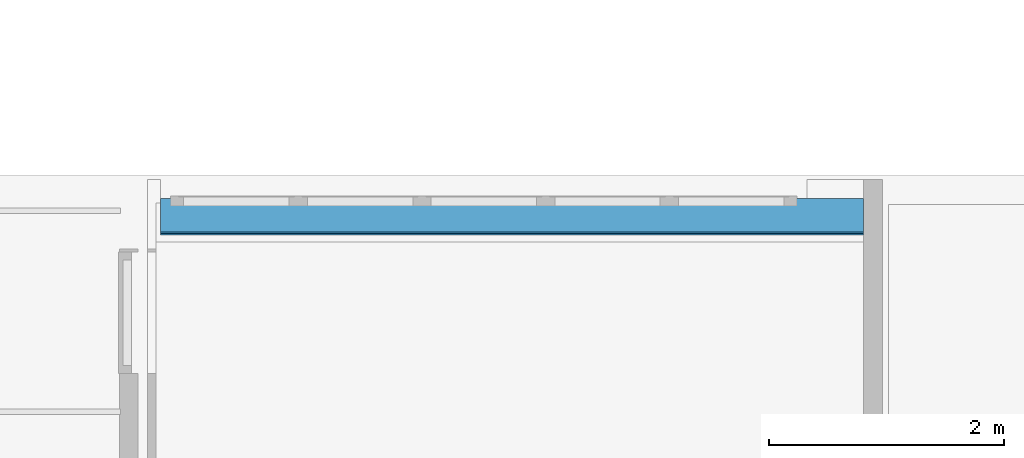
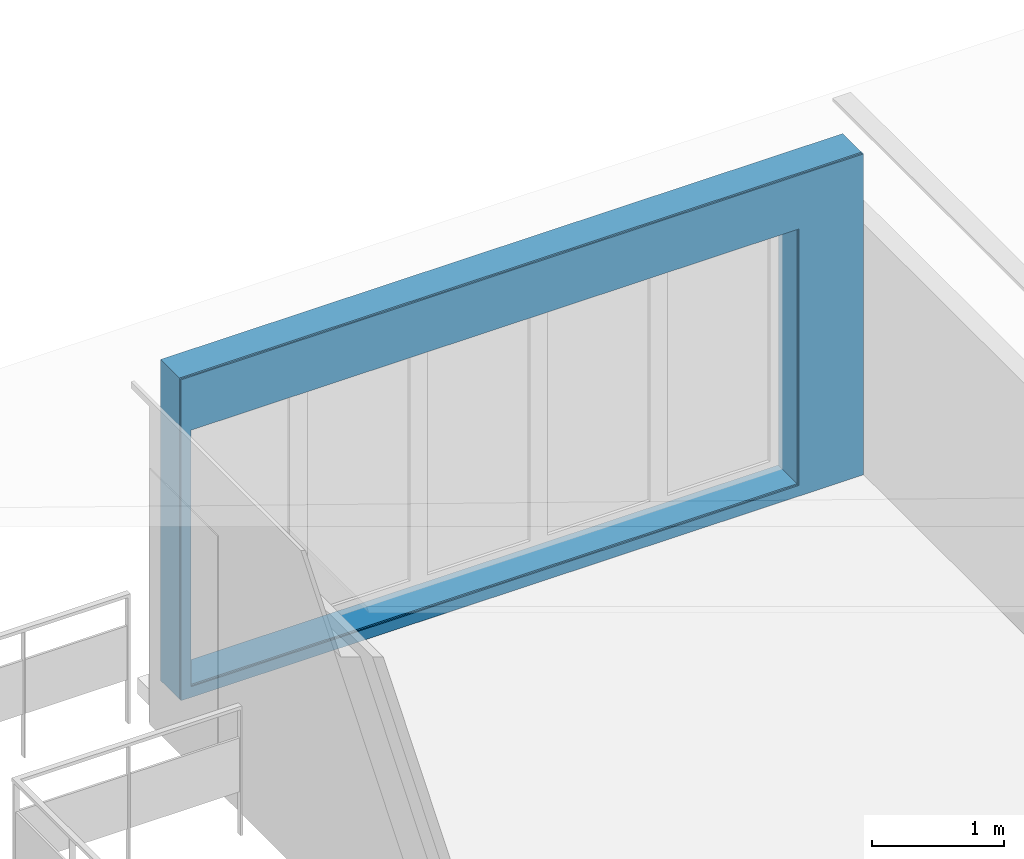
# One storey, part 16 of 25: 3 building element parts, 1 opening, 1 element without a shape of its own.
"""IFC2X3 building model written with IfcOpenShell, lengths in millimetres."""

from ifc_helpers import new_model, entity, si_unit, converted_unit, derived_unit, money_unit, direction, frame, origin_with_axes, place, context, subcontext, project, spatial, faceted_brep, material, type_object, element, aggregate, save


model = new_model("IFC2X3")

# Units and contexts
model_context = context("Model", 3, precision=0.01, world=origin_with_axes(), true_north=direction((0.0, 1.0)))
body_context = subcontext(model_context, "Body", "Model", "MODEL_VIEW")
ifc_project = project(units=[si_unit("LENGTHUNIT", "METRE", prefix="MILLI"), si_unit("AREAUNIT", "SQUARE_METRE"), si_unit("VOLUMEUNIT", "CUBIC_METRE"), converted_unit("PLANEANGLEUNIT", "DEGREE", entity("IfcPlaneAngleMeasure", 0.0174532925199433), si_unit("PLANEANGLEUNIT", "RADIAN"), dimensions=[0, 0, 0, 0, 0, 0, 0]), money_unit("EUR"), converted_unit("TIMEUNIT", "Year", entity("IfcTimeMeasure", 31557600.0), si_unit("TIMEUNIT", "SECOND"), dimensions=[0, 0, 1, 0, 0, 0, 0]), si_unit("MASSUNIT", "GRAM", prefix="KILO"), si_unit("THERMODYNAMICTEMPERATUREUNIT", "DEGREE_CELSIUS"), si_unit("LUMINOUSINTENSITYUNIT", "LUMEN"), si_unit("ENERGYUNIT", "JOULE", prefix="MEGA"), derived_unit("THERMALCONDUCTANCEUNIT", [(si_unit("POWERUNIT", "WATT"), 1), (si_unit("LENGTHUNIT", "METRE"), -1), (si_unit("THERMODYNAMICTEMPERATUREUNIT", "KELVIN"), -1)]), derived_unit("SPECIFICHEATCAPACITYUNIT", [(si_unit("ENERGYUNIT", "JOULE"), 1), (si_unit("MASSUNIT", "GRAM", prefix="KILO"), -1), (si_unit("THERMODYNAMICTEMPERATUREUNIT", "KELVIN"), -1)]), derived_unit("MASSDENSITYUNIT", [(si_unit("MASSUNIT", "GRAM", prefix="KILO"), 1), (si_unit("VOLUMEUNIT", "CUBIC_METRE"), -1)])], contexts=[model_context])

# Site, building, storey
site_placement = place(None, origin_with_axes())
site = spatial("IfcSite", under=ifc_project, at=site_placement, Name="<site naam>", CompositionType="ELEMENT")
building_placement = place(site_placement, origin_with_axes())
building = spatial("IfcBuilding", under=site, at=building_placement, Name="<Naam gebouw>", CompositionType="ELEMENT")
storey_placement = place(building_placement, frame((0.0, 0.0, 9563.0), z_axis=(0.0, 0.0, 1.0), x_axis=(1.0, 0.0, 0.0)))
storey = spatial("IfcBuildingStorey", under=building, at=storey_placement, Name="03 3e tussenverdieping", CompositionType="ELEMENT", Elevation=9563.0)

# Wall, opening, building element parts
wall_type = type_object("IfcWallType", Name="HSB_285 zonder gevelbeplating 313", PredefinedType="NOTDEFINED")
wall_placement = place(storey_placement, frame((52174.99998309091, 19840.00019144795, 0.0), z_axis=(0.0, 0.0, 1.0), x_axis=(1.0, 0.0, 0.0)))
wall = element("IfcWall", 1, at=wall_placement, inside=storey, type_object=wall_type, Name="21_Binnenwand_HSB_285")
opening_placement = place(wall_placement, frame((2750.43642075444, 0.0, 102.4999999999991), z_axis=(0.0, 0.0, 1.0), x_axis=(1.0, 0.0, 0.0)))
element("IfcOpeningElement", 2, at=opening_placement, cuts=wall, Name="21_BU-B-31_305", context=body_context, shape_type="Brep", body=[
    faceted_brep([(-2664.461586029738, -313.5000000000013, 2377.0), (-2664.461586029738, -313.5000000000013, 0.0), (2664.461586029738, -313.5000000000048, 0.0), (2664.461586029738, -313.5000000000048, 2377.0), (-2664.461586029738, 1.000000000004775, 2377.0), (-2664.461586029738, 1.000000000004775, 0.0), (2664.461586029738, 1.000000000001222, 0.0), (2664.461586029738, 1.000000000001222, 2377.0)], [[[0, 1, 2, 3]], [[4, 5, 1, 0]], [[5, 6, 2, 1]], [[6, 7, 3, 2]], [[7, 4, 0, 3]], [[6, 5, 4, 7]]]),
])
ifc_material_1 = material(Name="isolatie_houtvezel")
building_element_part_1_placement = place(wall_placement, origin_with_axes())
building_element_part_1 = element("IfcBuildingElementPart", 3, at=building_element_part_1_placement, material=ifc_material_1, Name="isolatie_houtvezel", context=body_context, shape_type="Brep", body=[
    faceted_brep([(5980.500016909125, -40.00019144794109, 3.000000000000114), (5980.500016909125, -40.00019144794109, 0.0), (5980.500016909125, 0.0, 0.0), (5980.500016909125, 0.0, 2977.0), (5980.500016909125, -285.0000000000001, 2977.0), (5980.500016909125, -285.0000000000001, 3.000000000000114), (0.0, -40.00019144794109, 3.000000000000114), (0.0, -40.00019144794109, 0.0), (0.0, 0.0, 0.0), (0.0, 0.0, 2977.0), (0.0, -285.0000000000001, 2977.0), (0.0, -285.0000000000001, 3.000000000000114)], [[[0, 1, 2, 3, 4, 5]], [[1, 0, 6, 7]], [[1, 7, 8, 2]], [[9, 3, 2, 8]], [[10, 4, 3, 9]], [[11, 5, 4, 10]], [[0, 5, 11, 6]], [[6, 11, 10, 9, 8, 7]]]),
])
ifc_material_2 = material(Name="hout_OSB")
building_element_part_2_placement = place(wall_placement, origin_with_axes())
building_element_part_2 = element("IfcBuildingElementPart", 4, at=building_element_part_2_placement, material=ifc_material_2, Name="hout_OSB", context=body_context, shape_type="Brep", body=[
    faceted_brep([(5980.500016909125, -300.0000000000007, 3.000000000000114), (5980.500016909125, -285.0000000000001, 3.000000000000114), (5980.500016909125, -285.0000000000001, 2977.0), (5980.500016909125, -300.0000000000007, 2977.0), (0.0, -285.0000000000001, 3.000000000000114), (0.0, -300.0000000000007, 3.000000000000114), (0.0, -285.0000000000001, 2977.0), (0.0, -300.0000000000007, 2977.0)], [[[0, 1, 2, 3]], [[4, 1, 0, 5]], [[1, 4, 6, 2]], [[7, 3, 2, 6]], [[5, 0, 3, 7]], [[4, 5, 7, 6]]]),
])
ifc_material_3 = material(Name="gipsplaat")
building_element_part_3_placement = place(wall_placement, origin_with_axes())
building_element_part_3 = element("IfcBuildingElementPart", 5, at=building_element_part_3_placement, material=ifc_material_3, Name="gipsplaat", context=body_context, shape_type="Brep", body=[
    faceted_brep([(5980.500016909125, -312.5, 3.000000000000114), (5980.500016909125, -300.0000000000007, 3.000000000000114), (5980.500016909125, -300.0000000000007, 2977.0), (5980.500016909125, -312.5, 2977.0), (0.0, -300.0000000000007, 3.000000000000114), (0.0, -312.5, 3.000000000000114), (0.0, -300.0000000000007, 2977.0), (0.0, -312.5, 2977.0)], [[[0, 1, 2, 3]], [[4, 1, 0, 5]], [[1, 4, 6, 2]], [[7, 3, 2, 6]], [[5, 0, 3, 7]], [[4, 5, 7, 6]]]),
])
aggregate(wall, [building_element_part_1, building_element_part_2, building_element_part_3])

save(model, "model.ifc")
